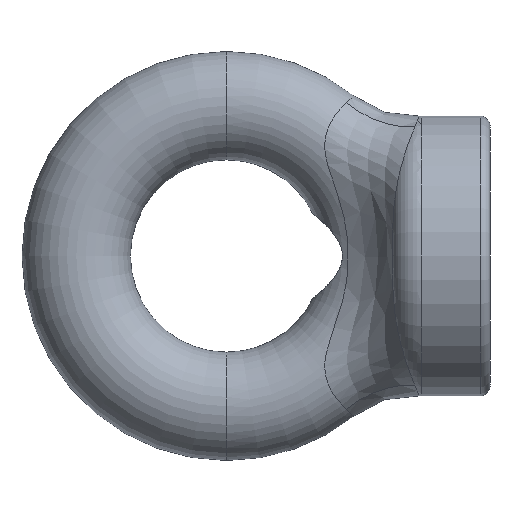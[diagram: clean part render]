
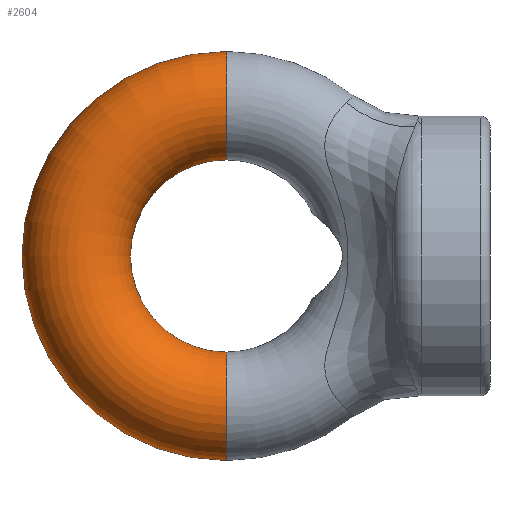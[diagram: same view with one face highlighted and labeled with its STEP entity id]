
A CAD part, front view. The second image highlights one B-rep face of the part: STEP entity #2604.
In plain terms, the highlighted toroidal (fillet/blend) face has major radius 15.25 mm and minor radius 5.5 mm.
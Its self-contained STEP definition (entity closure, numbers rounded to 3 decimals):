
#2585 = EDGE_CURVE ( 'NONE', #2586, #2587, #16603, .T. ) ;
#2586 = VERTEX_POINT ( 'NONE', #16598 ) ;
#2587 = VERTEX_POINT ( 'NONE', #16597 ) ;
#2588 = ORIENTED_EDGE ( 'NONE', *, *, #2589, .T. ) ;
#2589 = EDGE_CURVE ( 'NONE', #2586, #2590, #16596, .T. ) ;
#2590 = VERTEX_POINT ( 'NONE', #16591 ) ;
#2591 = ORIENTED_EDGE ( 'NONE', *, *, #2593, .T. ) ;
#2592 = VERTEX_POINT ( 'NONE', #16590 ) ;
#2593 = EDGE_CURVE ( 'NONE', #2590, #2592, #16589, .T. ) ;
#2594 = ORIENTED_EDGE ( 'NONE', *, *, #2595, .F. ) ;
#2595 = EDGE_CURVE ( 'NONE', #2587, #2592, #16584, .T. ) ;
#2604 = ADVANCED_FACE ( 'NONE', ( #16629 ), #16627, .T. ) ;
#2605 = EDGE_LOOP ( 'NONE', ( #2606, #2588, #2591, #2594 ) ) ;
#2606 = ORIENTED_EDGE ( 'NONE', *, *, #2585, .F. ) ;
#16580 = DIRECTION ( 'NONE',  ( 0., 0., -1. ) ) ;
#16581 = DIRECTION ( 'NONE',  ( 0., -1., 0. ) ) ;
#16582 = CARTESIAN_POINT ( 'NONE',  ( 0., 0., 0. ) ) ;
#16583 = AXIS2_PLACEMENT_3D ( 'NONE', #16582, #16581, #16580 ) ;
#16584 = CIRCLE ( 'NONE', #16583, 9.75 ) ;
#16585 = DIRECTION ( 'NONE',  ( 0., 0., 1. ) ) ;
#16586 = DIRECTION ( 'NONE',  ( -1., 0., 0. ) ) ;
#16587 = CARTESIAN_POINT ( 'NONE',  ( 0., 0., -15.25 ) ) ;
#16588 = AXIS2_PLACEMENT_3D ( 'NONE', #16587, #16586, #16585 ) ;
#16589 = CIRCLE ( 'NONE', #16588, 5.5 ) ;
#16590 = CARTESIAN_POINT ( 'NONE',  ( 0., 0., -9.75 ) ) ;
#16591 = CARTESIAN_POINT ( 'NONE',  ( 0., 0., -20.75 ) ) ;
#16592 = DIRECTION ( 'NONE',  ( 0., 0., -1. ) ) ;
#16593 = DIRECTION ( 'NONE',  ( 0., -1., 0. ) ) ;
#16594 = CARTESIAN_POINT ( 'NONE',  ( 0., 0., 0. ) ) ;
#16595 = AXIS2_PLACEMENT_3D ( 'NONE', #16594, #16593, #16592 ) ;
#16596 = CIRCLE ( 'NONE', #16595, 20.75 ) ;
#16597 = CARTESIAN_POINT ( 'NONE',  ( 0., 0., 9.75 ) ) ;
#16598 = CARTESIAN_POINT ( 'NONE',  ( 0., 0., 20.75 ) ) ;
#16599 = DIRECTION ( 'NONE',  ( 0., 0., -1. ) ) ;
#16600 = DIRECTION ( 'NONE',  ( 1., 0., 0. ) ) ;
#16601 = CARTESIAN_POINT ( 'NONE',  ( 0., 0., 15.25 ) ) ;
#16602 = AXIS2_PLACEMENT_3D ( 'NONE', #16601, #16600, #16599 ) ;
#16603 = CIRCLE ( 'NONE', #16602, 5.5 ) ;
#16624 = DIRECTION ( 'NONE',  ( 0., 0., -1. ) ) ;
#16625 = DIRECTION ( 'NONE',  ( 0., -1., 0. ) ) ;
#16626 = AXIS2_PLACEMENT_3D ( 'NONE', #16628, #16625, #16624 ) ;
#16627 = TOROIDAL_SURFACE ( 'NONE', #16626, 15.25, 5.5 ) ;
#16628 = CARTESIAN_POINT ( 'NONE',  ( 0., 0., 0. ) ) ;
#16629 = FACE_OUTER_BOUND ( 'NONE', #2605, .T. ) ;
